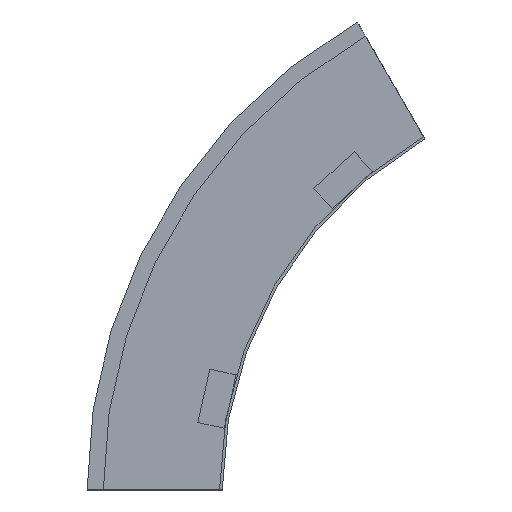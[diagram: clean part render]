
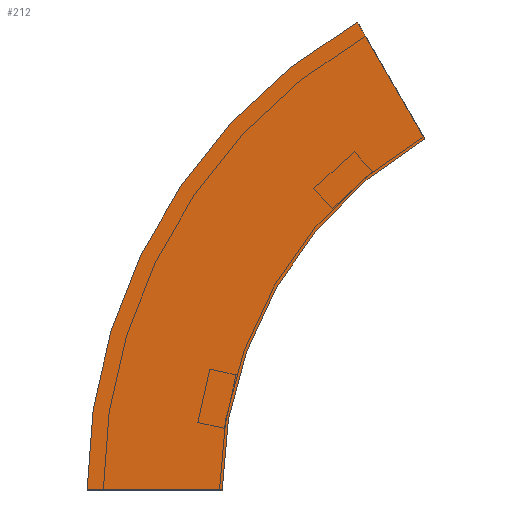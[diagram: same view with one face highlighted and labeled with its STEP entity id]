
A CAD part, left-side view. The second image highlights one B-rep face of the part: STEP entity #212.
In plain terms, the highlighted planar face has unit normal (-1, 0, 0) as drawn and (1, 0, 0) by its records, which use the part's own axes.
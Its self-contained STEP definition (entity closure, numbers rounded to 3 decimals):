
#17 = VERTEX_POINT ( 'NONE', #86 ) ;
#25 = VECTOR ( 'NONE', #487, 1000. ) ;
#47 = CARTESIAN_POINT ( 'NONE',  ( 0., -150., 259.808 ) ) ;
#55 = CIRCLE ( 'NONE', #566, 300. ) ;
#67 = ORIENTED_EDGE ( 'NONE', *, *, #71, .F. ) ;
#71 = EDGE_CURVE ( 'NONE', #17, #133, #55, .T. ) ;
#86 = CARTESIAN_POINT ( 'NONE',  ( 0., 0., 0. ) ) ;
#89 = PLANE ( 'NONE',  #168 ) ;
#99 = CARTESIAN_POINT ( 'NONE',  ( 0., -150., 259.808 ) ) ;
#115 = DIRECTION ( 'NONE',  ( 0., 1., 0. ) ) ;
#128 = ORIENTED_EDGE ( 'NONE', *, *, #391, .T. ) ;
#131 = FACE_OUTER_BOUND ( 'NONE', #316, .T. ) ;
#133 = VERTEX_POINT ( 'NONE', #99 ) ;
#140 = DIRECTION ( 'NONE',  ( 0., 0., -1. ) ) ;
#156 = CARTESIAN_POINT ( 'NONE',  ( 0., 0., 0. ) ) ;
#168 = AXIS2_PLACEMENT_3D ( 'NONE', #381, #443, #140 ) ;
#181 = LINE ( 'NONE', #47, #25 ) ;
#189 = EDGE_CURVE ( 'NONE', #133, #221, #181, .T. ) ;
#207 = EDGE_CURVE ( 'NONE', #328, #221, #493, .T. ) ;
#212 = ADVANCED_FACE ( 'NONE', ( #131 ), #89, .T. ) ;
#221 = VERTEX_POINT ( 'NONE', #314 ) ;
#226 = DIRECTION ( 'NONE',  ( 1., 0., 0. ) ) ;
#309 = DIRECTION ( 'NONE',  ( 0., 1., 0. ) ) ;
#314 = CARTESIAN_POINT ( 'NONE',  ( 0., -100., 346.41 ) ) ;
#316 = EDGE_LOOP ( 'NONE', ( #392, #342, #67, #128 ) ) ;
#328 = VERTEX_POINT ( 'NONE', #402 ) ;
#342 = ORIENTED_EDGE ( 'NONE', *, *, #189, .F. ) ;
#344 = DIRECTION ( 'NONE',  ( 1., 0., 0. ) ) ;
#346 = AXIS2_PLACEMENT_3D ( 'NONE', #535, #344, #530 ) ;
#372 = VECTOR ( 'NONE', #115, 1000. ) ;
#381 = CARTESIAN_POINT ( 'NONE',  ( 0., 0., 0. ) ) ;
#391 = EDGE_CURVE ( 'NONE', #17, #328, #556, .T. ) ;
#392 = ORIENTED_EDGE ( 'NONE', *, *, #207, .T. ) ;
#398 = CARTESIAN_POINT ( 'NONE',  ( 0., -300., 0. ) ) ;
#402 = CARTESIAN_POINT ( 'NONE',  ( 0., 100., 0. ) ) ;
#443 = DIRECTION ( 'NONE',  ( 1., 0., 0. ) ) ;
#487 = DIRECTION ( 'NONE',  ( 0., 0.5, 0.866 ) ) ;
#493 = CIRCLE ( 'NONE', #346, 400. ) ;
#530 = DIRECTION ( 'NONE',  ( 0., 1., 0. ) ) ;
#535 = CARTESIAN_POINT ( 'NONE',  ( 0., -300., 0. ) ) ;
#556 = LINE ( 'NONE', #156, #372 ) ;
#566 = AXIS2_PLACEMENT_3D ( 'NONE', #398, #226, #309 ) ;
